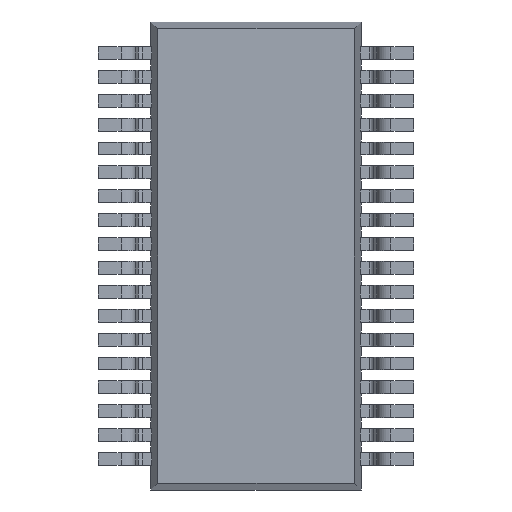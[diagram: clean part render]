
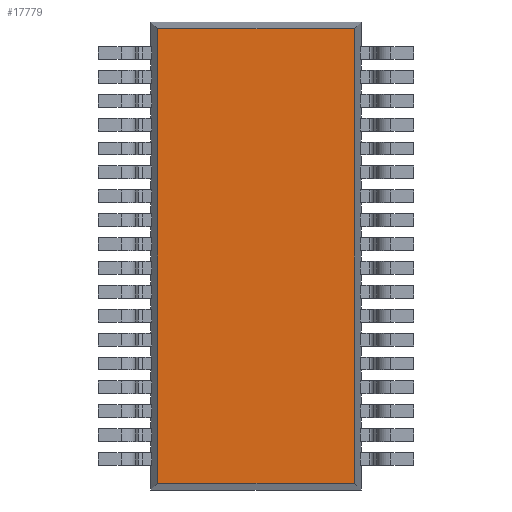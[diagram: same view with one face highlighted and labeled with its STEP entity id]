
A CAD part, front view. The second image highlights one B-rep face of the part: STEP entity #17779.
In plain terms, the highlighted planar face has unit normal (0, -1, 0).
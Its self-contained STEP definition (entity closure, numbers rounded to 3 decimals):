
#3673 = AXIS2_PLACEMENT_3D ( 'NONE', #6030, #6035, #6036 ) ;
#6029 = PLANE ( 'NONE',  #3673 ) ;
#6030 = CARTESIAN_POINT ( 'NONE',  ( 0., 0.1, 0. ) ) ;
#6035 = DIRECTION ( 'NONE',  ( 0., 1., 0. ) ) ;
#6036 = DIRECTION ( 'NONE',  ( 0., 0., 1. ) ) ;
#6525 = FACE_OUTER_BOUND ( 'NONE', #13777, .T. ) ;
#9513 = CARTESIAN_POINT ( 'NONE',  ( -2.059, 0.1, 4.759 ) ) ;
#9515 = CARTESIAN_POINT ( 'NONE',  ( -2.059, 0.1, -4.759 ) ) ;
#10153 = ORIENTED_EDGE ( 'NONE', *, *, #19587, .T. ) ;
#10154 = ORIENTED_EDGE ( 'NONE', *, *, #19256, .T. ) ;
#10155 = ORIENTED_EDGE ( 'NONE', *, *, #19080, .T. ) ;
#10156 = ORIENTED_EDGE ( 'NONE', *, *, #19257, .T. ) ;
#10586 = LINE ( 'NONE', #11998, #10589 ) ;
#10589 = VECTOR ( 'NONE', #12000, 1000. ) ;
#10904 = LINE ( 'NONE', #12383, #10907 ) ;
#10906 = LINE ( 'NONE', #12385, #10909 ) ;
#10907 = VECTOR ( 'NONE', #12384, 1000. ) ;
#10909 = VECTOR ( 'NONE', #12386, 1000. ) ;
#11494 = LINE ( 'NONE', #13065, #11522 ) ;
#11522 = VECTOR ( 'NONE', #13095, 1000. ) ;
#11998 = CARTESIAN_POINT ( 'NONE',  ( 2.059, 0.1, 4.9 ) ) ;
#12000 = DIRECTION ( 'NONE',  ( 0., 0., 1. ) ) ;
#12383 = CARTESIAN_POINT ( 'NONE',  ( 2.2, 0.1, -4.759 ) ) ;
#12384 = DIRECTION ( 'NONE',  ( 1., 0., 0. ) ) ;
#12385 = CARTESIAN_POINT ( 'NONE',  ( 2.2, 0.1, 4.759 ) ) ;
#12386 = DIRECTION ( 'NONE',  ( -1., 0., 0. ) ) ;
#13065 = CARTESIAN_POINT ( 'NONE',  ( -2.059, 0.1, 4.9 ) ) ;
#13095 = DIRECTION ( 'NONE',  ( 0., 0., -1. ) ) ;
#13656 = VERTEX_POINT ( 'NONE', #18269 ) ;
#13777 = EDGE_LOOP ( 'NONE', ( #10153, #10154, #10155, #10156 ) ) ;
#13859 = VERTEX_POINT ( 'NONE', #18299 ) ;
#17779 = ADVANCED_FACE ( 'NONE', ( #6525 ), #6029, .F. ) ;
#18029 = VERTEX_POINT ( 'NONE', #9513 ) ;
#18031 = VERTEX_POINT ( 'NONE', #9515 ) ;
#18269 = CARTESIAN_POINT ( 'NONE',  ( 2.059, 0.1, 4.759 ) ) ;
#18299 = CARTESIAN_POINT ( 'NONE',  ( 2.059, 0.1, -4.759 ) ) ;
#19080 = EDGE_CURVE ( 'NONE', #13859, #13656, #10586, .T. ) ;
#19256 = EDGE_CURVE ( 'NONE', #18031, #13859, #10904, .T. ) ;
#19257 = EDGE_CURVE ( 'NONE', #13656, #18029, #10906, .T. ) ;
#19587 = EDGE_CURVE ( 'NONE', #18029, #18031, #11494, .T. ) ;
